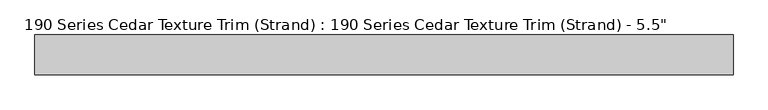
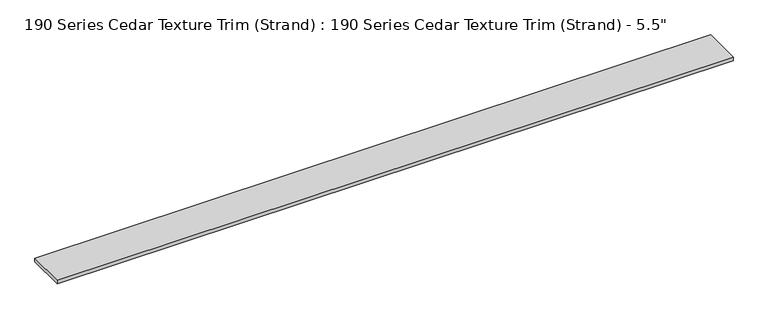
"""IFC4 building model written with IfcOpenShell, lengths in millimetres: proxy geometry."""

from ifc_helpers import new_model, si_unit, origin, origin_with_axes, place, context, project, spatial, polyline, outline, extrude, source, transform, mapped, element, save


def proxy_98838665(model_context):
    return source(origin(), model_context, "Body", "SweptSolid", [
        extrude(outline(polyline([(2438.4, 0.0), (0.0, 0.0), (0.0, 139.7), (2438.4, 139.7), (2438.4, 0.0)])), origin_with_axes(), (0.0, 0.0, 1.0), 13.49375),
    ])


if __name__ == "__main__":
    model = new_model("IFC4")
    model_context = context("Model", 3, world=origin())
    ifc_project = project(units=[si_unit("LENGTHUNIT", "METRE", prefix="MILLI")], contexts=[model_context])
    site = spatial("IfcSite", under=ifc_project)
    building = spatial("IfcBuilding", under=site)
    placement = place(None, origin())
    proxy_shape = proxy_98838665(model_context)
    element("IfcBuildingElementProxy", 1, Name="190 Series Cedar Texture Trim (Strand) : 190 Series Cedar Texture Trim (Strand) - 5.5\"", ObjectType="190 Series Cedar Texture Trim (Strand) : 190 Series Cedar Texture Trim (Strand) - 5.5\"", at=placement, inside=building, context=model_context, shape_type="MappedRepresentation", body=[
        mapped(proxy_shape, transform((0.0, 0.0, 0.0), x_axis=(1.0, 0.0, 0.0), y_axis=(0.0, 1.0, 0.0), z_axis=(0.0, 0.0, 1.0))),
    ])
    save(model, "model.ifc")
